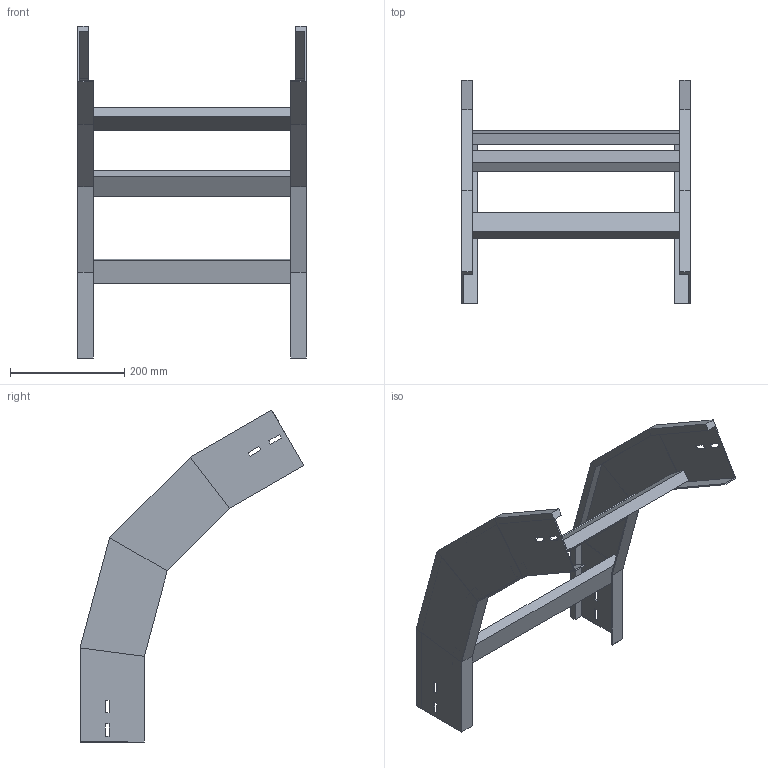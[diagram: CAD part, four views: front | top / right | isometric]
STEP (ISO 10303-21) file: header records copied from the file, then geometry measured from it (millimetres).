
FILE_DESCRIPTION (( 'STEP AP214' ), '1' );
FILE_NAME ('A2_41B3J400.step', '2025-02-21T14:58:19', ( '' ), ( '' ), 'SwSTEP 2.0', 'SolidWorks 2023', '' );
FILE_SCHEMA (( 'AUTOMOTIVE_DESIGN' ));
Length unit declared in the file: millimetre
Products named in the file (3): TRAVERSINO_400; LONGH.DISCESA_60°_H112.5_R300; A2_41B3J400
Assembly tree (5 placements, depth 2):
  A2_41B3J400
    LONGH.DISCESA_60°_H112.5_R300  x2
    TRAVERSINO_400  x3
Bounding box: 400 x 392.12 x 581.75 mm (x, y, z)
Volume: 1600009.3 mm3; surface area: 563081.2 mm2
Topology: 5 solids, 5 shells, 118 faces, 276 edges, 168 vertices
Faces by surface type: plane 118
Entity records: 1672 total; most frequent: CARTESIAN_POINT 276, ORIENTED_EDGE 264, DIRECTION 260, LINE 132, VECTOR 132, EDGE_CURVE 132, VERTEX_POINT 80, EDGE_LOOP 64
